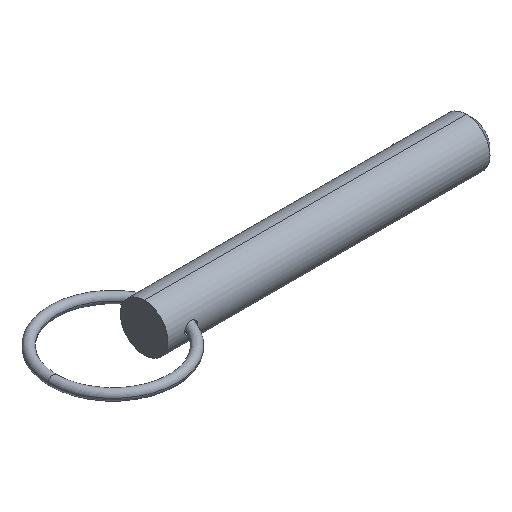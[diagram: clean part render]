
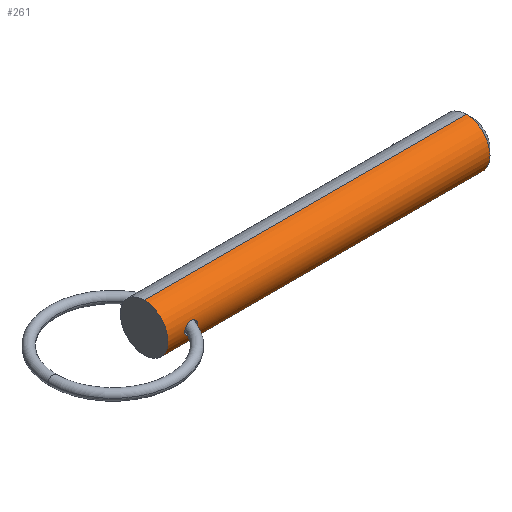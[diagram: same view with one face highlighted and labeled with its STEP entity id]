
A CAD part, isometric view. The second image highlights one B-rep face of the part: STEP entity #261.
In plain terms, the highlighted cylindrical face has radius 6.35 mm (diameter 12.7 mm), a partial arc.
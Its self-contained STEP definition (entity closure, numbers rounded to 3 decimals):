
#12 = B_SPLINE_CURVE_WITH_KNOTS ( 'NONE', 3,
 ( #353, #415, #133, #879, #871, #68, #621, #477, #731, #260, #459, #736, #685, #113, #532, #820, #211, #751, #487, #698, #705, #499, #291, #565, #776, #148, #423, #632, #768, #702, #299, #23 ),
 .UNSPECIFIED., .F., .F.,
 ( 4, 2, 2, 2, 2, 2, 2, 2, 2, 2, 2, 2, 2, 2, 2, 4 ),
 ( 0.006, 0.007, 0.007, 0.007, 0.008, 0.008, 0.008, 0.009, 0.009, 0.01, 0.01, 0.01, 0.011, 0.011, 0.011, 0.012 ),
 .UNSPECIFIED. ) ;
#23 = CARTESIAN_POINT ( 'NONE',  ( 4.452, -6.35, 0. ) ) ;
#49 = CARTESIAN_POINT ( 'NONE',  ( 6.965, -6.181, 1.458 ) ) ;
#65 = CARTESIAN_POINT ( 'NONE',  ( 7.063, -6.191, 1.413 ) ) ;
#68 = CARTESIAN_POINT ( 'NONE',  ( 7.746, -6.308, -0.737 ) ) ;
#109 = DIRECTION ( 'NONE',  ( 1., 0., 0. ) ) ;
#111 = DIRECTION ( 'NONE',  ( 0., 0., -1. ) ) ;
#113 = CARTESIAN_POINT ( 'NONE',  ( 6.655, -6.155, -1.565 ) ) ;
#133 = CARTESIAN_POINT ( 'NONE',  ( 7.909, -6.347, -0.22 ) ) ;
#135 = CARTESIAN_POINT ( 'NONE',  ( 4.51, -6.338, 0.435 ) ) ;
#142 = CARTESIAN_POINT ( 'NONE',  ( 0., 0., -6.35 ) ) ;
#148 = CARTESIAN_POINT ( 'NONE',  ( 4.722, -6.298, -0.813 ) ) ;
#163 = CARTESIAN_POINT ( 'NONE',  ( 0., 0., 6.35 ) ) ;
#175 = VERTEX_POINT ( 'NONE', #142 ) ;
#190 = DIRECTION ( 'NONE',  ( 0., 0., -1. ) ) ;
#196 = ORIENTED_EDGE ( 'NONE', *, *, #606, .F. ) ;
#211 = CARTESIAN_POINT ( 'NONE',  ( 5.998, -6.153, -1.568 ) ) ;
#225 = CIRCLE ( 'NONE', #358, 6.35 ) ;
#243 = EDGE_CURVE ( 'NONE', #175, #723, #595, .T. ) ;
#250 = CARTESIAN_POINT ( 'NONE',  ( 0., 0., 0. ) ) ;
#260 = CARTESIAN_POINT ( 'NONE',  ( 7.336, -6.229, -1.238 ) ) ;
#261 = ADVANCED_FACE ( 'NONE', ( #824, #687 ), #548, .T. ) ;
#268 = ORIENTED_EDGE ( 'NONE', *, *, #717, .T. ) ;
#271 = VECTOR ( 'NONE', #433, 1000. ) ;
#274 = CARTESIAN_POINT ( 'NONE',  ( 6.437, -6.149, 1.585 ) ) ;
#278 = CARTESIAN_POINT ( 'NONE',  ( 6.759, -6.163, 1.529 ) ) ;
#280 = CARTESIAN_POINT ( 'NONE',  ( 7.92, -6.35, 0. ) ) ;
#288 = EDGE_CURVE ( 'NONE', #321, #611, #12, .T. ) ;
#291 = CARTESIAN_POINT ( 'NONE',  ( 5.104, -6.237, -1.196 ) ) ;
#294 = CARTESIAN_POINT ( 'NONE',  ( 7.875, -6.338, 0.437 ) ) ;
#299 = CARTESIAN_POINT ( 'NONE',  ( 4.452, -6.35, -0.109 ) ) ;
#305 = CARTESIAN_POINT ( 'NONE',  ( 85.713, 0., 6.35 ) ) ;
#307 = CARTESIAN_POINT ( 'NONE',  ( 4.452, -6.35, 0. ) ) ;
#316 = DIRECTION ( 'NONE',  ( 1., 0., 0. ) ) ;
#321 = VERTEX_POINT ( 'NONE', #280 ) ;
#325 = AXIS2_PLACEMENT_3D ( 'NONE', #250, #316, #111 ) ;
#349 = CARTESIAN_POINT ( 'NONE',  ( 7.249, -6.215, 1.303 ) ) ;
#353 = CARTESIAN_POINT ( 'NONE',  ( 7.92, -6.35, 0. ) ) ;
#354 = EDGE_CURVE ( 'NONE', #611, #321, #873, .T. ) ;
#358 = AXIS2_PLACEMENT_3D ( 'NONE', #471, #366, #604 ) ;
#366 = DIRECTION ( 'NONE',  ( 1., 0., 0. ) ) ;
#410 = CARTESIAN_POINT ( 'NONE',  ( 5.191, -6.224, 1.268 ) ) ;
#415 = CARTESIAN_POINT ( 'NONE',  ( 7.92, -6.35, -0.109 ) ) ;
#416 = CARTESIAN_POINT ( 'NONE',  ( 6.329, -6.148, 1.59 ) ) ;
#423 = CARTESIAN_POINT ( 'NONE',  ( 4.662, -6.309, -0.723 ) ) ;
#429 = EDGE_CURVE ( 'NONE', #834, #877, #770, .T. ) ;
#433 = DIRECTION ( 'NONE',  ( 1., 0., 0. ) ) ;
#436 = CARTESIAN_POINT ( 'NONE',  ( 0., 0., -6.35 ) ) ;
#459 = CARTESIAN_POINT ( 'NONE',  ( 7.25, -6.215, -1.302 ) ) ;
#471 = CARTESIAN_POINT ( 'NONE',  ( 85.713, 0., 0. ) ) ;
#472 = CARTESIAN_POINT ( 'NONE',  ( 4.713, -6.3, 0.82 ) ) ;
#477 = CARTESIAN_POINT ( 'NONE',  ( 7.568, -6.27, -1.008 ) ) ;
#487 = CARTESIAN_POINT ( 'NONE',  ( 5.68, -6.172, -1.492 ) ) ;
#499 = CARTESIAN_POINT ( 'NONE',  ( 5.192, -6.225, -1.257 ) ) ;
#501 = CIRCLE ( 'NONE', #325, 6.35 ) ;
#506 = ORIENTED_EDGE ( 'NONE', *, *, #243, .T. ) ;
#531 = ORIENTED_EDGE ( 'NONE', *, *, #429, .F. ) ;
#532 = CARTESIAN_POINT ( 'NONE',  ( 6.434, -6.147, -1.595 ) ) ;
#546 = CARTESIAN_POINT ( 'NONE',  ( 7.576, -6.27, 1.017 ) ) ;
#548 = CYLINDRICAL_SURFACE ( 'NONE', #777, 6.35 ) ;
#549 = CARTESIAN_POINT ( 'NONE',  ( 5.685, -6.172, 1.494 ) ) ;
#565 = CARTESIAN_POINT ( 'NONE',  ( 4.938, -6.262, -1.058 ) ) ;
#587 = EDGE_LOOP ( 'NONE', ( #531, #268, #506, #196 ) ) ;
#595 = LINE ( 'NONE', #436, #826 ) ;
#604 = DIRECTION ( 'NONE',  ( 0., 0., -1. ) ) ;
#606 = EDGE_CURVE ( 'NONE', #877, #723, #225, .T. ) ;
#610 = CARTESIAN_POINT ( 'NONE',  ( 7.338, -6.229, 1.237 ) ) ;
#611 = VERTEX_POINT ( 'NONE', #307 ) ;
#612 = CARTESIAN_POINT ( 'NONE',  ( 4.856, -6.274, 0.989 ) ) ;
#614 = CARTESIAN_POINT ( 'NONE',  ( 4.452, -6.35, 0. ) ) ;
#618 = CARTESIAN_POINT ( 'NONE',  ( 6.111, -6.15, 1.582 ) ) ;
#621 = CARTESIAN_POINT ( 'NONE',  ( 7.693, -6.296, -0.832 ) ) ;
#622 = CARTESIAN_POINT ( 'NONE',  ( 7.704, -6.298, 0.835 ) ) ;
#625 = CARTESIAN_POINT ( 'NONE',  ( 0., 0., 0. ) ) ;
#632 = CARTESIAN_POINT ( 'NONE',  ( 4.56, -6.329, -0.53 ) ) ;
#658 = ORIENTED_EDGE ( 'NONE', *, *, #354, .T. ) ;
#665 = DIRECTION ( 'NONE',  ( 1., 0., 0. ) ) ;
#671 = CARTESIAN_POINT ( 'NONE',  ( 5.789, -6.164, 1.525 ) ) ;
#674 = CARTESIAN_POINT ( 'NONE',  ( 7.92, -6.35, 0.218 ) ) ;
#679 = CARTESIAN_POINT ( 'NONE',  ( 5.381, -6.199, 1.378 ) ) ;
#685 = CARTESIAN_POINT ( 'NONE',  ( 6.963, -6.18, -1.459 ) ) ;
#687 = FACE_BOUND ( 'NONE', #739, .T. ) ;
#688 = CARTESIAN_POINT ( 'NONE',  ( 6.652, -6.157, 1.554 ) ) ;
#698 = CARTESIAN_POINT ( 'NONE',  ( 5.477, -6.191, -1.414 ) ) ;
#702 = CARTESIAN_POINT ( 'NONE',  ( 4.466, -6.347, -0.219 ) ) ;
#705 = CARTESIAN_POINT ( 'NONE',  ( 5.378, -6.201, -1.366 ) ) ;
#712 = CARTESIAN_POINT ( 'NONE',  ( 85.713, 0., -6.35 ) ) ;
#717 = EDGE_CURVE ( 'NONE', #834, #175, #501, .T. ) ;
#723 = VERTEX_POINT ( 'NONE', #712 ) ;
#731 = CARTESIAN_POINT ( 'NONE',  ( 7.496, -6.256, -1.091 ) ) ;
#736 = CARTESIAN_POINT ( 'NONE',  ( 7.063, -6.191, -1.413 ) ) ;
#739 = EDGE_LOOP ( 'NONE', ( #658, #887 ) ) ;
#751 = CARTESIAN_POINT ( 'NONE',  ( 5.784, -6.165, -1.523 ) ) ;
#768 = CARTESIAN_POINT ( 'NONE',  ( 4.52, -6.336, -0.428 ) ) ;
#770 = LINE ( 'NONE', #163, #271 ) ;
#776 = CARTESIAN_POINT ( 'NONE',  ( 4.86, -6.274, -0.98 ) ) ;
#777 = AXIS2_PLACEMENT_3D ( 'NONE', #625, #109, #190 ) ;
#800 = CARTESIAN_POINT ( 'NONE',  ( 0., 0., 6.35 ) ) ;
#815 = CARTESIAN_POINT ( 'NONE',  ( 7.92, -6.35, 0. ) ) ;
#820 = CARTESIAN_POINT ( 'NONE',  ( 6.107, -6.15, -1.582 ) ) ;
#824 = FACE_OUTER_BOUND ( 'NONE', #587, .T. ) ;
#826 = VECTOR ( 'NONE', #665, 1000. ) ;
#834 = VERTEX_POINT ( 'NONE', #800 ) ;
#871 = CARTESIAN_POINT ( 'NONE',  ( 7.833, -6.328, -0.536 ) ) ;
#873 = B_SPLINE_CURVE_WITH_KNOTS ( 'NONE', 3,
 ( #614, #895, #135, #472, #612, #410, #679, #549, #671, #890, #618, #416, #274, #688, #278, #49, #65, #349, #610, #546, #622, #294, #674, #815 ),
 .UNSPECIFIED., .F., .F.,
 ( 4, 2, 2, 2, 2, 2, 2, 2, 2, 2, 2, 4 ),
 ( 0.001, 0.002, 0.002, 0.003, 0.003, 0.004, 0.004, 0.004, 0.005, 0.005, 0.006, 0.006 ),
 .UNSPECIFIED. ) ;
#877 = VERTEX_POINT ( 'NONE', #305 ) ;
#879 = CARTESIAN_POINT ( 'NONE',  ( 7.865, -6.336, -0.432 ) ) ;
#887 = ORIENTED_EDGE ( 'NONE', *, *, #288, .T. ) ;
#890 = CARTESIAN_POINT ( 'NONE',  ( 6.002, -6.153, 1.569 ) ) ;
#895 = CARTESIAN_POINT ( 'NONE',  ( 4.452, -6.35, 0.219 ) ) ;
